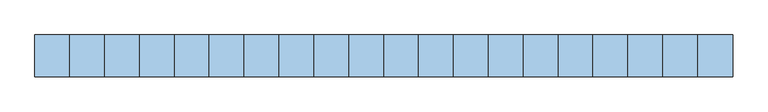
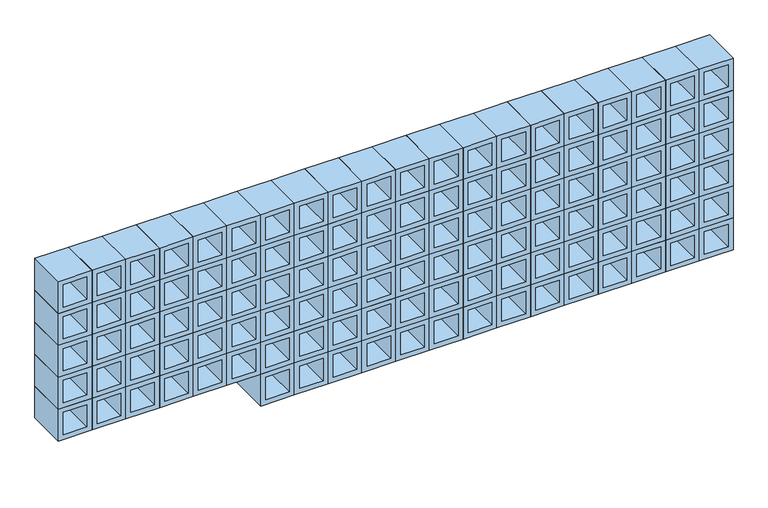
"""IFC4 building model written with IfcOpenShell, lengths in millimetres: window geometry, Concrete_Cobog_Hollow_block_14694 : Cobogó 2,00 x 1,60 m."""

from ifc_helpers import new_model, si_unit, frame, origin, place, context, project, spatial, polyline, outline, extrude, source, transform, mapped, element, save


def window_f572775f(model_context):
    return source(origin(), model_context, "Body", "SweptSolid", [
        extrude(outline(polyline([(2200.0, 1000.0), (2300.0, 1000.0), (2300.0, 900.0), (2200.0, 900.0), (2200.0, 1000.0)]), holes=[polyline([(2285.0, 915.0), (2285.0, 985.0), (2215.0, 985.0), (2215.0, 915.0), (2285.0, 915.0)])]), frame((0.0, -60.0, 0.0), z_axis=(0.0, 1.0, 0.0), x_axis=(0.0, 0.0, 1.0)), (0.0, 0.0, 1.0), 120.0),
        extrude(outline(polyline([(2200.0, 900.0), (2300.0, 900.0), (2300.0, 800.0), (2200.0, 800.0), (2200.0, 900.0)]), holes=[polyline([(2285.0, 815.0), (2285.0, 885.0), (2215.0, 885.0), (2215.0, 815.0), (2285.0, 815.0)])]), frame((0.0, -60.0, 0.0), z_axis=(0.0, 1.0, 0.0), x_axis=(0.0, 0.0, 1.0)), (0.0, 0.0, 1.0), 120.0),
        extrude(outline(polyline([(2200.0, 800.0), (2300.0, 800.0), (2300.0, 700.0), (2200.0, 700.0), (2200.0, 800.0)]), holes=[polyline([(2285.0, 715.0), (2285.0, 785.0), (2215.0, 785.0), (2215.0, 715.0), (2285.0, 715.0)])]), frame((0.0, -60.0, 0.0), z_axis=(0.0, 1.0, 0.0), x_axis=(0.0, 0.0, 1.0)), (0.0, 0.0, 1.0), 120.0),
        extrude(outline(polyline([(2200.0, 700.0), (2300.0, 700.0), (2300.0, 600.0), (2200.0, 600.0), (2200.0, 700.0)]), holes=[polyline([(2285.0, 615.0), (2285.0, 685.0), (2215.0, 685.0), (2215.0, 615.0), (2285.0, 615.0)])]), frame((0.0, -60.0, 0.0), z_axis=(0.0, 1.0, 0.0), x_axis=(0.0, 0.0, 1.0)), (0.0, 0.0, 1.0), 120.0),
        extrude(outline(polyline([(2200.0, 600.0), (2300.0, 600.0), (2300.0, 500.0), (2200.0, 500.0), (2200.0, 600.0)]), holes=[polyline([(2285.0, 515.0), (2285.0, 585.0), (2215.0, 585.0), (2215.0, 515.0), (2285.0, 515.0)])]), frame((0.0, -60.0, 0.0), z_axis=(0.0, 1.0, 0.0), x_axis=(0.0, 0.0, 1.0)), (0.0, 0.0, 1.0), 120.0),
        extrude(outline(polyline([(2200.0, 500.0), (2300.0, 500.0), (2300.0, 400.0), (2200.0, 400.0), (2200.0, 500.0)]), holes=[polyline([(2285.0, 415.0), (2285.0, 485.0), (2215.0, 485.0), (2215.0, 415.0), (2285.0, 415.0)])]), frame((0.0, -60.0, 0.0), z_axis=(0.0, 1.0, 0.0), x_axis=(0.0, 0.0, 1.0)), (0.0, 0.0, 1.0), 120.0),
        extrude(outline(polyline([(2200.0, 400.0), (2300.0, 400.0), (2300.0, 300.0), (2200.0, 300.0), (2200.0, 400.0)]), holes=[polyline([(2285.0, 315.0), (2285.0, 385.0), (2215.0, 385.0), (2215.0, 315.0), (2285.0, 315.0)])]), frame((0.0, -60.0, 0.0), z_axis=(0.0, 1.0, 0.0), x_axis=(0.0, 0.0, 1.0)), (0.0, 0.0, 1.0), 120.0),
        extrude(outline(polyline([(2200.0, 300.0), (2300.0, 300.0), (2300.0, 200.0), (2200.0, 200.0), (2200.0, 300.0)]), holes=[polyline([(2285.0, 215.0), (2285.0, 285.0), (2215.0, 285.0), (2215.0, 215.0), (2285.0, 215.0)])]), frame((0.0, -60.0, 0.0), z_axis=(0.0, 1.0, 0.0), x_axis=(0.0, 0.0, 1.0)), (0.0, 0.0, 1.0), 120.0),
        extrude(outline(polyline([(2200.0, 200.0), (2300.0, 200.0), (2300.0, 100.0), (2200.0, 100.0), (2200.0, 200.0)]), holes=[polyline([(2285.0, 115.0), (2285.0, 185.0), (2215.0, 185.0), (2215.0, 115.0), (2285.0, 115.0)])]), frame((0.0, -60.0, 0.0), z_axis=(0.0, 1.0, 0.0), x_axis=(0.0, 0.0, 1.0)), (0.0, 0.0, 1.0), 120.0),
        extrude(outline(polyline([(2200.0, 100.0), (2300.0, 100.0), (2300.0, 0.0), (2200.0, 0.0), (2200.0, 100.0)]), holes=[polyline([(2285.0, 15.0), (2285.0, 85.0), (2215.0, 85.0), (2215.0, 15.0), (2285.0, 15.0)])]), frame((0.0, -60.0, 0.0), z_axis=(0.0, 1.0, 0.0), x_axis=(0.0, 0.0, 1.0)), (0.0, 0.0, 1.0), 120.0),
        extrude(outline(polyline([(2200.0, 0.0), (2300.0, 0.0), (2300.0, -100.0), (2200.0, -100.0), (2200.0, 0.0)]), holes=[polyline([(2285.0, -85.0), (2285.0, -15.0), (2215.0, -15.0), (2215.0, -85.0), (2285.0, -85.0)])]), frame((0.0, -60.0, 0.0), z_axis=(0.0, 1.0, 0.0), x_axis=(0.0, 0.0, 1.0)), (0.0, 0.0, 1.0), 120.0),
        extrude(outline(polyline([(2200.0, -100.0), (2300.0, -100.0), (2300.0, -200.0), (2200.0, -200.0), (2200.0, -100.0)]), holes=[polyline([(2285.0, -185.0), (2285.0, -115.0), (2215.0, -115.0), (2215.0, -185.0), (2285.0, -185.0)])]), frame((0.0, -60.0, 0.0), z_axis=(0.0, 1.0, 0.0), x_axis=(0.0, 0.0, 1.0)), (0.0, 0.0, 1.0), 120.0),
        extrude(outline(polyline([(2200.0, -200.0), (2300.0, -200.0), (2300.0, -300.0), (2200.0, -300.0), (2200.0, -200.0)]), holes=[polyline([(2285.0, -285.0), (2285.0, -215.0), (2215.0, -215.0), (2215.0, -285.0), (2285.0, -285.0)])]), frame((0.0, -60.0, 0.0), z_axis=(0.0, 1.0, 0.0), x_axis=(0.0, 0.0, 1.0)), (0.0, 0.0, 1.0), 120.0),
        extrude(outline(polyline([(2200.0, -300.0), (2300.0, -300.0), (2300.0, -400.0), (2200.0, -400.0), (2200.0, -300.0)]), holes=[polyline([(2285.0, -385.0), (2285.0, -315.0), (2215.0, -315.0), (2215.0, -385.0), (2285.0, -385.0)])]), frame((0.0, -60.0, 0.0), z_axis=(0.0, 1.0, 0.0), x_axis=(0.0, 0.0, 1.0)), (0.0, 0.0, 1.0), 120.0),
        extrude(outline(polyline([(2200.0, -400.0), (2300.0, -400.0), (2300.0, -500.0), (2200.0, -500.0), (2200.0, -400.0)]), holes=[polyline([(2285.0, -485.0), (2285.0, -415.0), (2215.0, -415.0), (2215.0, -485.0), (2285.0, -485.0)])]), frame((0.0, -60.0, 0.0), z_axis=(0.0, 1.0, 0.0), x_axis=(0.0, 0.0, 1.0)), (0.0, 0.0, 1.0), 120.0),
        extrude(outline(polyline([(2200.0, -500.0), (2300.0, -500.0), (2300.0, -600.0), (2200.0, -600.0), (2200.0, -500.0)]), holes=[polyline([(2285.0, -585.0), (2285.0, -515.0), (2215.0, -515.0), (2215.0, -585.0), (2285.0, -585.0)])]), frame((0.0, -60.0, 0.0), z_axis=(0.0, 1.0, 0.0), x_axis=(0.0, 0.0, 1.0)), (0.0, 0.0, 1.0), 120.0),
        extrude(outline(polyline([(2200.0, -600.0), (2300.0, -600.0), (2300.0, -700.0), (2200.0, -700.0), (2200.0, -600.0)]), holes=[polyline([(2285.0, -685.0), (2285.0, -615.0), (2215.0, -615.0), (2215.0, -685.0), (2285.0, -685.0)])]), frame((0.0, -60.0, 0.0), z_axis=(0.0, 1.0, 0.0), x_axis=(0.0, 0.0, 1.0)), (0.0, 0.0, 1.0), 120.0),
        extrude(outline(polyline([(2200.0, -700.0), (2300.0, -700.0), (2300.0, -800.0), (2200.0, -800.0), (2200.0, -700.0)]), holes=[polyline([(2285.0, -785.0), (2285.0, -715.0), (2215.0, -715.0), (2215.0, -785.0), (2285.0, -785.0)])]), frame((0.0, -60.0, 0.0), z_axis=(0.0, 1.0, 0.0), x_axis=(0.0, 0.0, 1.0)), (0.0, 0.0, 1.0), 120.0),
        extrude(outline(polyline([(2200.0, -800.0), (2300.0, -800.0), (2300.0, -900.0), (2200.0, -900.0), (2200.0, -800.0)]), holes=[polyline([(2285.0, -885.0), (2285.0, -815.0), (2215.0, -815.0), (2215.0, -885.0), (2285.0, -885.0)])]), frame((0.0, -60.0, 0.0), z_axis=(0.0, 1.0, 0.0), x_axis=(0.0, 0.0, 1.0)), (0.0, 0.0, 1.0), 120.0),
        extrude(outline(polyline([(2200.0, -900.0), (2300.0, -900.0), (2300.0, -1000.0), (2200.0, -1000.0), (2200.0, -900.0)]), holes=[polyline([(2285.0, -985.0), (2285.0, -915.0), (2215.0, -915.0), (2215.0, -985.0), (2285.0, -985.0)])]), frame((0.0, -60.0, 0.0), z_axis=(0.0, 1.0, 0.0), x_axis=(0.0, 0.0, 1.0)), (0.0, 0.0, 1.0), 120.0),
        extrude(outline(polyline([(2100.0, 1000.0), (2200.0, 1000.0), (2200.0, 900.0), (2100.0, 900.0), (2100.0, 1000.0)]), holes=[polyline([(2185.0, 915.0), (2185.0, 985.0), (2115.0, 985.0), (2115.0, 915.0), (2185.0, 915.0)])]), frame((0.0, -60.0, 0.0), z_axis=(0.0, 1.0, 0.0), x_axis=(0.0, 0.0, 1.0)), (0.0, 0.0, 1.0), 120.0),
        extrude(outline(polyline([(2100.0, 900.0), (2200.0, 900.0), (2200.0, 800.0), (2100.0, 800.0), (2100.0, 900.0)]), holes=[polyline([(2185.0, 815.0), (2185.0, 885.0), (2115.0, 885.0), (2115.0, 815.0), (2185.0, 815.0)])]), frame((0.0, -60.0, 0.0), z_axis=(0.0, 1.0, 0.0), x_axis=(0.0, 0.0, 1.0)), (0.0, 0.0, 1.0), 120.0),
        extrude(outline(polyline([(2100.0, 800.0), (2200.0, 800.0), (2200.0, 700.0), (2100.0, 700.0), (2100.0, 800.0)]), holes=[polyline([(2185.0, 715.0), (2185.0, 785.0), (2115.0, 785.0), (2115.0, 715.0), (2185.0, 715.0)])]), frame((0.0, -60.0, 0.0), z_axis=(0.0, 1.0, 0.0), x_axis=(0.0, 0.0, 1.0)), (0.0, 0.0, 1.0), 120.0),
        extrude(outline(polyline([(2100.0, 700.0), (2200.0, 700.0), (2200.0, 600.0), (2100.0, 600.0), (2100.0, 700.0)]), holes=[polyline([(2185.0, 615.0), (2185.0, 685.0), (2115.0, 685.0), (2115.0, 615.0), (2185.0, 615.0)])]), frame((0.0, -60.0, 0.0), z_axis=(0.0, 1.0, 0.0), x_axis=(0.0, 0.0, 1.0)), (0.0, 0.0, 1.0), 120.0),
        extrude(outline(polyline([(2100.0, 600.0), (2200.0, 600.0), (2200.0, 500.0), (2100.0, 500.0), (2100.0, 600.0)]), holes=[polyline([(2185.0, 515.0), (2185.0, 585.0), (2115.0, 585.0), (2115.0, 515.0), (2185.0, 515.0)])]), frame((0.0, -60.0, 0.0), z_axis=(0.0, 1.0, 0.0), x_axis=(0.0, 0.0, 1.0)), (0.0, 0.0, 1.0), 120.0),
        extrude(outline(polyline([(2100.0, 500.0), (2200.0, 500.0), (2200.0, 400.0), (2100.0, 400.0), (2100.0, 500.0)]), holes=[polyline([(2185.0, 415.0), (2185.0, 485.0), (2115.0, 485.0), (2115.0, 415.0), (2185.0, 415.0)])]), frame((0.0, -60.0, 0.0), z_axis=(0.0, 1.0, 0.0), x_axis=(0.0, 0.0, 1.0)), (0.0, 0.0, 1.0), 120.0),
        extrude(outline(polyline([(2100.0, 400.0), (2200.0, 400.0), (2200.0, 300.0), (2100.0, 300.0), (2100.0, 400.0)]), holes=[polyline([(2185.0, 315.0), (2185.0, 385.0), (2115.0, 385.0), (2115.0, 315.0), (2185.0, 315.0)])]), frame((0.0, -60.0, 0.0), z_axis=(0.0, 1.0, 0.0), x_axis=(0.0, 0.0, 1.0)), (0.0, 0.0, 1.0), 120.0),
        extrude(outline(polyline([(2100.0, 300.0), (2200.0, 300.0), (2200.0, 200.0), (2100.0, 200.0), (2100.0, 300.0)]), holes=[polyline([(2185.0, 215.0), (2185.0, 285.0), (2115.0, 285.0), (2115.0, 215.0), (2185.0, 215.0)])]), frame((0.0, -60.0, 0.0), z_axis=(0.0, 1.0, 0.0), x_axis=(0.0, 0.0, 1.0)), (0.0, 0.0, 1.0), 120.0),
        extrude(outline(polyline([(2100.0, 200.0), (2200.0, 200.0), (2200.0, 100.0), (2100.0, 100.0), (2100.0, 200.0)]), holes=[polyline([(2185.0, 115.0), (2185.0, 185.0), (2115.0, 185.0), (2115.0, 115.0), (2185.0, 115.0)])]), frame((0.0, -60.0, 0.0), z_axis=(0.0, 1.0, 0.0), x_axis=(0.0, 0.0, 1.0)), (0.0, 0.0, 1.0), 120.0),
        extrude(outline(polyline([(2100.0, 100.0), (2200.0, 100.0), (2200.0, 0.0), (2100.0, 0.0), (2100.0, 100.0)]), holes=[polyline([(2185.0, 15.0), (2185.0, 85.0), (2115.0, 85.0), (2115.0, 15.0), (2185.0, 15.0)])]), frame((0.0, -60.0, 0.0), z_axis=(0.0, 1.0, 0.0), x_axis=(0.0, 0.0, 1.0)), (0.0, 0.0, 1.0), 120.0),
        extrude(outline(polyline([(2100.0, 0.0), (2200.0, 0.0), (2200.0, -100.0), (2100.0, -100.0), (2100.0, 0.0)]), holes=[polyline([(2185.0, -85.0), (2185.0, -15.0), (2115.0, -15.0), (2115.0, -85.0), (2185.0, -85.0)])]), frame((0.0, -60.0, 0.0), z_axis=(0.0, 1.0, 0.0), x_axis=(0.0, 0.0, 1.0)), (0.0, 0.0, 1.0), 120.0),
        extrude(outline(polyline([(2100.0, -100.0), (2200.0, -100.0), (2200.0, -200.0), (2100.0, -200.0), (2100.0, -100.0)]), holes=[polyline([(2185.0, -185.0), (2185.0, -115.0), (2115.0, -115.0), (2115.0, -185.0), (2185.0, -185.0)])]), frame((0.0, -60.0, 0.0), z_axis=(0.0, 1.0, 0.0), x_axis=(0.0, 0.0, 1.0)), (0.0, 0.0, 1.0), 120.0),
        extrude(outline(polyline([(2100.0, -200.0), (2200.0, -200.0), (2200.0, -300.0), (2100.0, -300.0), (2100.0, -200.0)]), holes=[polyline([(2185.0, -285.0), (2185.0, -215.0), (2115.0, -215.0), (2115.0, -285.0), (2185.0, -285.0)])]), frame((0.0, -60.0, 0.0), z_axis=(0.0, 1.0, 0.0), x_axis=(0.0, 0.0, 1.0)), (0.0, 0.0, 1.0), 120.0),
        extrude(outline(polyline([(2100.0, -300.0), (2200.0, -300.0), (2200.0, -400.0), (2100.0, -400.0), (2100.0, -300.0)]), holes=[polyline([(2185.0, -385.0), (2185.0, -315.0), (2115.0, -315.0), (2115.0, -385.0), (2185.0, -385.0)])]), frame((0.0, -60.0, 0.0), z_axis=(0.0, 1.0, 0.0), x_axis=(0.0, 0.0, 1.0)), (0.0, 0.0, 1.0), 120.0),
        extrude(outline(polyline([(2100.0, -400.0), (2200.0, -400.0), (2200.0, -500.0), (2100.0, -500.0), (2100.0, -400.0)]), holes=[polyline([(2185.0, -485.0), (2185.0, -415.0), (2115.0, -415.0), (2115.0, -485.0), (2185.0, -485.0)])]), frame((0.0, -60.0, 0.0), z_axis=(0.0, 1.0, 0.0), x_axis=(0.0, 0.0, 1.0)), (0.0, 0.0, 1.0), 120.0),
        extrude(outline(polyline([(2100.0, -500.0), (2200.0, -500.0), (2200.0, -600.0), (2100.0, -600.0), (2100.0, -500.0)]), holes=[polyline([(2185.0, -585.0), (2185.0, -515.0), (2115.0, -515.0), (2115.0, -585.0), (2185.0, -585.0)])]), frame((0.0, -60.0, 0.0), z_axis=(0.0, 1.0, 0.0), x_axis=(0.0, 0.0, 1.0)), (0.0, 0.0, 1.0), 120.0),
        extrude(outline(polyline([(2100.0, -600.0), (2200.0, -600.0), (2200.0, -700.0), (2100.0, -700.0), (2100.0, -600.0)]), holes=[polyline([(2185.0, -685.0), (2185.0, -615.0), (2115.0, -615.0), (2115.0, -685.0), (2185.0, -685.0)])]), frame((0.0, -60.0, 0.0), z_axis=(0.0, 1.0, 0.0), x_axis=(0.0, 0.0, 1.0)), (0.0, 0.0, 1.0), 120.0),
        extrude(outline(polyline([(2100.0, -700.0), (2200.0, -700.0), (2200.0, -800.0), (2100.0, -800.0), (2100.0, -700.0)]), holes=[polyline([(2185.0, -785.0), (2185.0, -715.0), (2115.0, -715.0), (2115.0, -785.0), (2185.0, -785.0)])]), frame((0.0, -60.0, 0.0), z_axis=(0.0, 1.0, 0.0), x_axis=(0.0, 0.0, 1.0)), (0.0, 0.0, 1.0), 120.0),
        extrude(outline(polyline([(2100.0, -800.0), (2200.0, -800.0), (2200.0, -900.0), (2100.0, -900.0), (2100.0, -800.0)]), holes=[polyline([(2185.0, -885.0), (2185.0, -815.0), (2115.0, -815.0), (2115.0, -885.0), (2185.0, -885.0)])]), frame((0.0, -60.0, 0.0), z_axis=(0.0, 1.0, 0.0), x_axis=(0.0, 0.0, 1.0)), (0.0, 0.0, 1.0), 120.0),
        extrude(outline(polyline([(2100.0, -900.0), (2200.0, -900.0), (2200.0, -1000.0), (2100.0, -1000.0), (2100.0, -900.0)]), holes=[polyline([(2185.0, -985.0), (2185.0, -915.0), (2115.0, -915.0), (2115.0, -985.0), (2185.0, -985.0)])]), frame((0.0, -60.0, 0.0), z_axis=(0.0, 1.0, 0.0), x_axis=(0.0, 0.0, 1.0)), (0.0, 0.0, 1.0), 120.0),
        extrude(outline(polyline([(2000.0, 1000.0), (2100.0, 1000.0), (2100.0, 900.0), (2000.0, 900.0), (2000.0, 1000.0)]), holes=[polyline([(2085.0, 915.0), (2085.0, 985.0), (2015.0, 985.0), (2015.0, 915.0), (2085.0, 915.0)])]), frame((0.0, -60.0, 0.0), z_axis=(0.0, 1.0, 0.0), x_axis=(0.0, 0.0, 1.0)), (0.0, 0.0, 1.0), 120.0),
        extrude(outline(polyline([(2000.0, 900.0), (2100.0, 900.0), (2100.0, 800.0), (2000.0, 800.0), (2000.0, 900.0)]), holes=[polyline([(2085.0, 815.0), (2085.0, 885.0), (2015.0, 885.0), (2015.0, 815.0), (2085.0, 815.0)])]), frame((0.0, -60.0, 0.0), z_axis=(0.0, 1.0, 0.0), x_axis=(0.0, 0.0, 1.0)), (0.0, 0.0, 1.0), 120.0),
        extrude(outline(polyline([(2000.0, 800.0), (2100.0, 800.0), (2100.0, 700.0), (2000.0, 700.0), (2000.0, 800.0)]), holes=[polyline([(2085.0, 715.0), (2085.0, 785.0), (2015.0, 785.0), (2015.0, 715.0), (2085.0, 715.0)])]), frame((0.0, -60.0, 0.0), z_axis=(0.0, 1.0, 0.0), x_axis=(0.0, 0.0, 1.0)), (0.0, 0.0, 1.0), 120.0),
        extrude(outline(polyline([(2000.0, 700.0), (2100.0, 700.0), (2100.0, 600.0), (2000.0, 600.0), (2000.0, 700.0)]), holes=[polyline([(2085.0, 615.0), (2085.0, 685.0), (2015.0, 685.0), (2015.0, 615.0), (2085.0, 615.0)])]), frame((0.0, -60.0, 0.0), z_axis=(0.0, 1.0, 0.0), x_axis=(0.0, 0.0, 1.0)), (0.0, 0.0, 1.0), 120.0),
        extrude(outline(polyline([(2000.0, 600.0), (2100.0, 600.0), (2100.0, 500.0), (2000.0, 500.0), (2000.0, 600.0)]), holes=[polyline([(2085.0, 515.0), (2085.0, 585.0), (2015.0, 585.0), (2015.0, 515.0), (2085.0, 515.0)])]), frame((0.0, -60.0, 0.0), z_axis=(0.0, 1.0, 0.0), x_axis=(0.0, 0.0, 1.0)), (0.0, 0.0, 1.0), 120.0),
        extrude(outline(polyline([(2000.0, 500.0), (2100.0, 500.0), (2100.0, 400.0), (2000.0, 400.0), (2000.0, 500.0)]), holes=[polyline([(2085.0, 415.0), (2085.0, 485.0), (2015.0, 485.0), (2015.0, 415.0), (2085.0, 415.0)])]), frame((0.0, -60.0, 0.0), z_axis=(0.0, 1.0, 0.0), x_axis=(0.0, 0.0, 1.0)), (0.0, 0.0, 1.0), 120.0),
        extrude(outline(polyline([(2000.0, 400.0), (2100.0, 400.0), (2100.0, 300.0), (2000.0, 300.0), (2000.0, 400.0)]), holes=[polyline([(2085.0, 315.0), (2085.0, 385.0), (2015.0, 385.0), (2015.0, 315.0), (2085.0, 315.0)])]), frame((0.0, -60.0, 0.0), z_axis=(0.0, 1.0, 0.0), x_axis=(0.0, 0.0, 1.0)), (0.0, 0.0, 1.0), 120.0),
        extrude(outline(polyline([(2000.0, 300.0), (2100.0, 300.0), (2100.0, 200.0), (2000.0, 200.0), (2000.0, 300.0)]), holes=[polyline([(2085.0, 215.0), (2085.0, 285.0), (2015.0, 285.0), (2015.0, 215.0), (2085.0, 215.0)])]), frame((0.0, -60.0, 0.0), z_axis=(0.0, 1.0, 0.0), x_axis=(0.0, 0.0, 1.0)), (0.0, 0.0, 1.0), 120.0),
        extrude(outline(polyline([(2000.0, 200.0), (2100.0, 200.0), (2100.0, 100.0), (2000.0, 100.0), (2000.0, 200.0)]), holes=[polyline([(2085.0, 115.0), (2085.0, 185.0), (2015.0, 185.0), (2015.0, 115.0), (2085.0, 115.0)])]), frame((0.0, -60.0, 0.0), z_axis=(0.0, 1.0, 0.0), x_axis=(0.0, 0.0, 1.0)), (0.0, 0.0, 1.0), 120.0),
        extrude(outline(polyline([(2000.0, 100.0), (2100.0, 100.0), (2100.0, 0.0), (2000.0, 0.0), (2000.0, 100.0)]), holes=[polyline([(2085.0, 15.0), (2085.0, 85.0), (2015.0, 85.0), (2015.0, 15.0), (2085.0, 15.0)])]), frame((0.0, -60.0, 0.0), z_axis=(0.0, 1.0, 0.0), x_axis=(0.0, 0.0, 1.0)), (0.0, 0.0, 1.0), 120.0),
        extrude(outline(polyline([(2000.0, 0.0), (2100.0, 0.0), (2100.0, -100.0), (2000.0, -100.0), (2000.0, 0.0)]), holes=[polyline([(2085.0, -85.0), (2085.0, -15.0), (2015.0, -15.0), (2015.0, -85.0), (2085.0, -85.0)])]), frame((0.0, -60.0, 0.0), z_axis=(0.0, 1.0, 0.0), x_axis=(0.0, 0.0, 1.0)), (0.0, 0.0, 1.0), 120.0),
        extrude(outline(polyline([(2000.0, -100.0), (2100.0, -100.0), (2100.0, -200.0), (2000.0, -200.0), (2000.0, -100.0)]), holes=[polyline([(2085.0, -185.0), (2085.0, -115.0), (2015.0, -115.0), (2015.0, -185.0), (2085.0, -185.0)])]), frame((0.0, -60.0, 0.0), z_axis=(0.0, 1.0, 0.0), x_axis=(0.0, 0.0, 1.0)), (0.0, 0.0, 1.0), 120.0),
        extrude(outline(polyline([(2000.0, -200.0), (2100.0, -200.0), (2100.0, -300.0), (2000.0, -300.0), (2000.0, -200.0)]), holes=[polyline([(2085.0, -285.0), (2085.0, -215.0), (2015.0, -215.0), (2015.0, -285.0), (2085.0, -285.0)])]), frame((0.0, -60.0, 0.0), z_axis=(0.0, 1.0, 0.0), x_axis=(0.0, 0.0, 1.0)), (0.0, 0.0, 1.0), 120.0),
        extrude(outline(polyline([(2000.0, -300.0), (2100.0, -300.0), (2100.0, -400.0), (2000.0, -400.0), (2000.0, -300.0)]), holes=[polyline([(2085.0, -385.0), (2085.0, -315.0), (2015.0, -315.0), (2015.0, -385.0), (2085.0, -385.0)])]), frame((0.0, -60.0, 0.0), z_axis=(0.0, 1.0, 0.0), x_axis=(0.0, 0.0, 1.0)), (0.0, 0.0, 1.0), 120.0),
        extrude(outline(polyline([(2000.0, -400.0), (2100.0, -400.0), (2100.0, -500.0), (2000.0, -500.0), (2000.0, -400.0)]), holes=[polyline([(2085.0, -485.0), (2085.0, -415.0), (2015.0, -415.0), (2015.0, -485.0), (2085.0, -485.0)])]), frame((0.0, -60.0, 0.0), z_axis=(0.0, 1.0, 0.0), x_axis=(0.0, 0.0, 1.0)), (0.0, 0.0, 1.0), 120.0),
        extrude(outline(polyline([(2000.0, -500.0), (2100.0, -500.0), (2100.0, -600.0), (2000.0, -600.0), (2000.0, -500.0)]), holes=[polyline([(2085.0, -585.0), (2085.0, -515.0), (2015.0, -515.0), (2015.0, -585.0), (2085.0, -585.0)])]), frame((0.0, -60.0, 0.0), z_axis=(0.0, 1.0, 0.0), x_axis=(0.0, 0.0, 1.0)), (0.0, 0.0, 1.0), 120.0),
        extrude(outline(polyline([(2000.0, -600.0), (2100.0, -600.0), (2100.0, -700.0), (2000.0, -700.0), (2000.0, -600.0)]), holes=[polyline([(2085.0, -685.0), (2085.0, -615.0), (2015.0, -615.0), (2015.0, -685.0), (2085.0, -685.0)])]), frame((0.0, -60.0, 0.0), z_axis=(0.0, 1.0, 0.0), x_axis=(0.0, 0.0, 1.0)), (0.0, 0.0, 1.0), 120.0),
        extrude(outline(polyline([(2000.0, -700.0), (2100.0, -700.0), (2100.0, -800.0), (2000.0, -800.0), (2000.0, -700.0)]), holes=[polyline([(2085.0, -785.0), (2085.0, -715.0), (2015.0, -715.0), (2015.0, -785.0), (2085.0, -785.0)])]), frame((0.0, -60.0, 0.0), z_axis=(0.0, 1.0, 0.0), x_axis=(0.0, 0.0, 1.0)), (0.0, 0.0, 1.0), 120.0),
        extrude(outline(polyline([(2000.0, -800.0), (2100.0, -800.0), (2100.0, -900.0), (2000.0, -900.0), (2000.0, -800.0)]), holes=[polyline([(2085.0, -885.0), (2085.0, -815.0), (2015.0, -815.0), (2015.0, -885.0), (2085.0, -885.0)])]), frame((0.0, -60.0, 0.0), z_axis=(0.0, 1.0, 0.0), x_axis=(0.0, 0.0, 1.0)), (0.0, 0.0, 1.0), 120.0),
        extrude(outline(polyline([(2000.0, -900.0), (2100.0, -900.0), (2100.0, -1000.0), (2000.0, -1000.0), (2000.0, -900.0)]), holes=[polyline([(2085.0, -985.0), (2085.0, -915.0), (2015.0, -915.0), (2015.0, -985.0), (2085.0, -985.0)])]), frame((0.0, -60.0, 0.0), z_axis=(0.0, 1.0, 0.0), x_axis=(0.0, 0.0, 1.0)), (0.0, 0.0, 1.0), 120.0),
        extrude(outline(polyline([(1900.0, 1000.0), (2000.0, 1000.0), (2000.0, 900.0), (1900.0, 900.0), (1900.0, 1000.0)]), holes=[polyline([(1985.0, 915.0), (1985.0, 985.0), (1915.0, 985.0), (1915.0, 915.0), (1985.0, 915.0)])]), frame((0.0, -60.0, 0.0), z_axis=(0.0, 1.0, 0.0), x_axis=(0.0, 0.0, 1.0)), (0.0, 0.0, 1.0), 120.0),
        extrude(outline(polyline([(1900.0, 900.0), (2000.0, 900.0), (2000.0, 800.0), (1900.0, 800.0), (1900.0, 900.0)]), holes=[polyline([(1985.0, 815.0), (1985.0, 885.0), (1915.0, 885.0), (1915.0, 815.0), (1985.0, 815.0)])]), frame((0.0, -60.0, 0.0), z_axis=(0.0, 1.0, 0.0), x_axis=(0.0, 0.0, 1.0)), (0.0, 0.0, 1.0), 120.0),
        extrude(outline(polyline([(1900.0, 800.0), (2000.0, 800.0), (2000.0, 700.0), (1900.0, 700.0), (1900.0, 800.0)]), holes=[polyline([(1985.0, 715.0), (1985.0, 785.0), (1915.0, 785.0), (1915.0, 715.0), (1985.0, 715.0)])]), frame((0.0, -60.0, 0.0), z_axis=(0.0, 1.0, 0.0), x_axis=(0.0, 0.0, 1.0)), (0.0, 0.0, 1.0), 120.0),
        extrude(outline(polyline([(1900.0, 700.0), (2000.0, 700.0), (2000.0, 600.0), (1900.0, 600.0), (1900.0, 700.0)]), holes=[polyline([(1985.0, 615.0), (1985.0, 685.0), (1915.0, 685.0), (1915.0, 615.0), (1985.0, 615.0)])]), frame((0.0, -60.0, 0.0), z_axis=(0.0, 1.0, 0.0), x_axis=(0.0, 0.0, 1.0)), (0.0, 0.0, 1.0), 120.0),
        extrude(outline(polyline([(1900.0, 600.0), (2000.0, 600.0), (2000.0, 500.0), (1900.0, 500.0), (1900.0, 600.0)]), holes=[polyline([(1985.0, 515.0), (1985.0, 585.0), (1915.0, 585.0), (1915.0, 515.0), (1985.0, 515.0)])]), frame((0.0, -60.0, 0.0), z_axis=(0.0, 1.0, 0.0), x_axis=(0.0, 0.0, 1.0)), (0.0, 0.0, 1.0), 120.0),
        extrude(outline(polyline([(1900.0, 500.0), (2000.0, 500.0), (2000.0, 400.0), (1900.0, 400.0), (1900.0, 500.0)]), holes=[polyline([(1985.0, 415.0), (1985.0, 485.0), (1915.0, 485.0), (1915.0, 415.0), (1985.0, 415.0)])]), frame((0.0, -60.0, 0.0), z_axis=(0.0, 1.0, 0.0), x_axis=(0.0, 0.0, 1.0)), (0.0, 0.0, 1.0), 120.0),
        extrude(outline(polyline([(1900.0, 400.0), (2000.0, 400.0), (2000.0, 300.0), (1900.0, 300.0), (1900.0, 400.0)]), holes=[polyline([(1985.0, 315.0), (1985.0, 385.0), (1915.0, 385.0), (1915.0, 315.0), (1985.0, 315.0)])]), frame((0.0, -60.0, 0.0), z_axis=(0.0, 1.0, 0.0), x_axis=(0.0, 0.0, 1.0)), (0.0, 0.0, 1.0), 120.0),
        extrude(outline(polyline([(1900.0, 300.0), (2000.0, 300.0), (2000.0, 200.0), (1900.0, 200.0), (1900.0, 300.0)]), holes=[polyline([(1985.0, 215.0), (1985.0, 285.0), (1915.0, 285.0), (1915.0, 215.0), (1985.0, 215.0)])]), frame((0.0, -60.0, 0.0), z_axis=(0.0, 1.0, 0.0), x_axis=(0.0, 0.0, 1.0)), (0.0, 0.0, 1.0), 120.0),
        extrude(outline(polyline([(1900.0, 200.0), (2000.0, 200.0), (2000.0, 100.0), (1900.0, 100.0), (1900.0, 200.0)]), holes=[polyline([(1985.0, 115.0), (1985.0, 185.0), (1915.0, 185.0), (1915.0, 115.0), (1985.0, 115.0)])]), frame((0.0, -60.0, 0.0), z_axis=(0.0, 1.0, 0.0), x_axis=(0.0, 0.0, 1.0)), (0.0, 0.0, 1.0), 120.0),
        extrude(outline(polyline([(1900.0, 100.0), (2000.0, 100.0), (2000.0, 0.0), (1900.0, 0.0), (1900.0, 100.0)]), holes=[polyline([(1985.0, 15.0), (1985.0, 85.0), (1915.0, 85.0), (1915.0, 15.0), (1985.0, 15.0)])]), frame((0.0, -60.0, 0.0), z_axis=(0.0, 1.0, 0.0), x_axis=(0.0, 0.0, 1.0)), (0.0, 0.0, 1.0), 120.0),
        extrude(outline(polyline([(1900.0, 0.0), (2000.0, 0.0), (2000.0, -100.0), (1900.0, -100.0), (1900.0, 0.0)]), holes=[polyline([(1985.0, -85.0), (1985.0, -15.0), (1915.0, -15.0), (1915.0, -85.0), (1985.0, -85.0)])]), frame((0.0, -60.0, 0.0), z_axis=(0.0, 1.0, 0.0), x_axis=(0.0, 0.0, 1.0)), (0.0, 0.0, 1.0), 120.0),
        extrude(outline(polyline([(1900.0, -100.0), (2000.0, -100.0), (2000.0, -200.0), (1900.0, -200.0), (1900.0, -100.0)]), holes=[polyline([(1985.0, -185.0), (1985.0, -115.0), (1915.0, -115.0), (1915.0, -185.0), (1985.0, -185.0)])]), frame((0.0, -60.0, 0.0), z_axis=(0.0, 1.0, 0.0), x_axis=(0.0, 0.0, 1.0)), (0.0, 0.0, 1.0), 120.0),
        extrude(outline(polyline([(1900.0, -200.0), (2000.0, -200.0), (2000.0, -300.0), (1900.0, -300.0), (1900.0, -200.0)]), holes=[polyline([(1985.0, -285.0), (1985.0, -215.0), (1915.0, -215.0), (1915.0, -285.0), (1985.0, -285.0)])]), frame((0.0, -60.0, 0.0), z_axis=(0.0, 1.0, 0.0), x_axis=(0.0, 0.0, 1.0)), (0.0, 0.0, 1.0), 120.0),
        extrude(outline(polyline([(1900.0, -300.0), (2000.0, -300.0), (2000.0, -400.0), (1900.0, -400.0), (1900.0, -300.0)]), holes=[polyline([(1985.0, -385.0), (1985.0, -315.0), (1915.0, -315.0), (1915.0, -385.0), (1985.0, -385.0)])]), frame((0.0, -60.0, 0.0), z_axis=(0.0, 1.0, 0.0), x_axis=(0.0, 0.0, 1.0)), (0.0, 0.0, 1.0), 120.0),
        extrude(outline(polyline([(1900.0, -400.0), (2000.0, -400.0), (2000.0, -500.0), (1900.0, -500.0), (1900.0, -400.0)]), holes=[polyline([(1985.0, -485.0), (1985.0, -415.0), (1915.0, -415.0), (1915.0, -485.0), (1985.0, -485.0)])]), frame((0.0, -60.0, 0.0), z_axis=(0.0, 1.0, 0.0), x_axis=(0.0, 0.0, 1.0)), (0.0, 0.0, 1.0), 120.0),
        extrude(outline(polyline([(1900.0, -500.0), (2000.0, -500.0), (2000.0, -600.0), (1900.0, -600.0), (1900.0, -500.0)]), holes=[polyline([(1985.0, -585.0), (1985.0, -515.0), (1915.0, -515.0), (1915.0, -585.0), (1985.0, -585.0)])]), frame((0.0, -60.0, 0.0), z_axis=(0.0, 1.0, 0.0), x_axis=(0.0, 0.0, 1.0)), (0.0, 0.0, 1.0), 120.0),
        extrude(outline(polyline([(1900.0, -600.0), (2000.0, -600.0), (2000.0, -700.0), (1900.0, -700.0), (1900.0, -600.0)]), holes=[polyline([(1985.0, -685.0), (1985.0, -615.0), (1915.0, -615.0), (1915.0, -685.0), (1985.0, -685.0)])]), frame((0.0, -60.0, 0.0), z_axis=(0.0, 1.0, 0.0), x_axis=(0.0, 0.0, 1.0)), (0.0, 0.0, 1.0), 120.0),
        extrude(outline(polyline([(1900.0, -700.0), (2000.0, -700.0), (2000.0, -800.0), (1900.0, -800.0), (1900.0, -700.0)]), holes=[polyline([(1985.0, -785.0), (1985.0, -715.0), (1915.0, -715.0), (1915.0, -785.0), (1985.0, -785.0)])]), frame((0.0, -60.0, 0.0), z_axis=(0.0, 1.0, 0.0), x_axis=(0.0, 0.0, 1.0)), (0.0, 0.0, 1.0), 120.0),
        extrude(outline(polyline([(1900.0, -800.0), (2000.0, -800.0), (2000.0, -900.0), (1900.0, -900.0), (1900.0, -800.0)]), holes=[polyline([(1985.0, -885.0), (1985.0, -815.0), (1915.0, -815.0), (1915.0, -885.0), (1985.0, -885.0)])]), frame((0.0, -60.0, 0.0), z_axis=(0.0, 1.0, 0.0), x_axis=(0.0, 0.0, 1.0)), (0.0, 0.0, 1.0), 120.0),
        extrude(outline(polyline([(1900.0, -900.0), (2000.0, -900.0), (2000.0, -1000.0), (1900.0, -1000.0), (1900.0, -900.0)]), holes=[polyline([(1985.0, -985.0), (1985.0, -915.0), (1915.0, -915.0), (1915.0, -985.0), (1985.0, -985.0)])]), frame((0.0, -60.0, 0.0), z_axis=(0.0, 1.0, 0.0), x_axis=(0.0, 0.0, 1.0)), (0.0, 0.0, 1.0), 120.0),
        extrude(outline(polyline([(1800.0, 1000.0), (1900.0, 1000.0), (1900.0, 900.0), (1800.0, 900.0), (1800.0, 1000.0)]), holes=[polyline([(1885.0, 915.0), (1885.0, 985.0), (1815.0, 985.0), (1815.0, 915.0), (1885.0, 915.0)])]), frame((0.0, -60.0, 0.0), z_axis=(0.0, 1.0, 0.0), x_axis=(0.0, 0.0, 1.0)), (0.0, 0.0, 1.0), 120.0),
        extrude(outline(polyline([(1800.0, 900.0), (1900.0, 900.0), (1900.0, 800.0), (1800.0, 800.0), (1800.0, 900.0)]), holes=[polyline([(1885.0, 815.0), (1885.0, 885.0), (1815.0, 885.0), (1815.0, 815.0), (1885.0, 815.0)])]), frame((0.0, -60.0, 0.0), z_axis=(0.0, 1.0, 0.0), x_axis=(0.0, 0.0, 1.0)), (0.0, 0.0, 1.0), 120.0),
        extrude(outline(polyline([(1800.0, 800.0), (1900.0, 800.0), (1900.0, 700.0), (1800.0, 700.0), (1800.0, 800.0)]), holes=[polyline([(1885.0, 715.0), (1885.0, 785.0), (1815.0, 785.0), (1815.0, 715.0), (1885.0, 715.0)])]), frame((0.0, -60.0, 0.0), z_axis=(0.0, 1.0, 0.0), x_axis=(0.0, 0.0, 1.0)), (0.0, 0.0, 1.0), 120.0),
        extrude(outline(polyline([(1800.0, 700.0), (1900.0, 700.0), (1900.0, 600.0), (1800.0, 600.0), (1800.0, 700.0)]), holes=[polyline([(1885.0, 615.0), (1885.0, 685.0), (1815.0, 685.0), (1815.0, 615.0), (1885.0, 615.0)])]), frame((0.0, -60.0, 0.0), z_axis=(0.0, 1.0, 0.0), x_axis=(0.0, 0.0, 1.0)), (0.0, 0.0, 1.0), 120.0),
        extrude(outline(polyline([(1800.0, 600.0), (1900.0, 600.0), (1900.0, 500.0), (1800.0, 500.0), (1800.0, 600.0)]), holes=[polyline([(1885.0, 515.0), (1885.0, 585.0), (1815.0, 585.0), (1815.0, 515.0), (1885.0, 515.0)])]), frame((0.0, -60.0, 0.0), z_axis=(0.0, 1.0, 0.0), x_axis=(0.0, 0.0, 1.0)), (0.0, 0.0, 1.0), 120.0),
        extrude(outline(polyline([(1800.0, 500.0), (1900.0, 500.0), (1900.0, 400.0), (1800.0, 400.0), (1800.0, 500.0)]), holes=[polyline([(1885.0, 415.0), (1885.0, 485.0), (1815.0, 485.0), (1815.0, 415.0), (1885.0, 415.0)])]), frame((0.0, -60.0, 0.0), z_axis=(0.0, 1.0, 0.0), x_axis=(0.0, 0.0, 1.0)), (0.0, 0.0, 1.0), 120.0),
        extrude(outline(polyline([(1800.0, 400.0), (1900.0, 400.0), (1900.0, 300.0), (1800.0, 300.0), (1800.0, 400.0)]), holes=[polyline([(1885.0, 315.0), (1885.0, 385.0), (1815.0, 385.0), (1815.0, 315.0), (1885.0, 315.0)])]), frame((0.0, -60.0, 0.0), z_axis=(0.0, 1.0, 0.0), x_axis=(0.0, 0.0, 1.0)), (0.0, 0.0, 1.0), 120.0),
        extrude(outline(polyline([(1800.0, 300.0), (1900.0, 300.0), (1900.0, 200.0), (1800.0, 200.0), (1800.0, 300.0)]), holes=[polyline([(1885.0, 215.0), (1885.0, 285.0), (1815.0, 285.0), (1815.0, 215.0), (1885.0, 215.0)])]), frame((0.0, -60.0, 0.0), z_axis=(0.0, 1.0, 0.0), x_axis=(0.0, 0.0, 1.0)), (0.0, 0.0, 1.0), 120.0),
        extrude(outline(polyline([(1800.0, 200.0), (1900.0, 200.0), (1900.0, 100.0), (1800.0, 100.0), (1800.0, 200.0)]), holes=[polyline([(1885.0, 115.0), (1885.0, 185.0), (1815.0, 185.0), (1815.0, 115.0), (1885.0, 115.0)])]), frame((0.0, -60.0, 0.0), z_axis=(0.0, 1.0, 0.0), x_axis=(0.0, 0.0, 1.0)), (0.0, 0.0, 1.0), 120.0),
        extrude(outline(polyline([(1800.0, 100.0), (1900.0, 100.0), (1900.0, 0.0), (1800.0, 0.0), (1800.0, 100.0)]), holes=[polyline([(1885.0, 15.0), (1885.0, 85.0), (1815.0, 85.0), (1815.0, 15.0), (1885.0, 15.0)])]), frame((0.0, -60.0, 0.0), z_axis=(0.0, 1.0, 0.0), x_axis=(0.0, 0.0, 1.0)), (0.0, 0.0, 1.0), 120.0),
        extrude(outline(polyline([(1800.0, 0.0), (1900.0, 0.0), (1900.0, -100.0), (1800.0, -100.0), (1800.0, 0.0)]), holes=[polyline([(1885.0, -85.0), (1885.0, -15.0), (1815.0, -15.0), (1815.0, -85.0), (1885.0, -85.0)])]), frame((0.0, -60.0, 0.0), z_axis=(0.0, 1.0, 0.0), x_axis=(0.0, 0.0, 1.0)), (0.0, 0.0, 1.0), 120.0),
        extrude(outline(polyline([(1800.0, -100.0), (1900.0, -100.0), (1900.0, -200.0), (1800.0, -200.0), (1800.0, -100.0)]), holes=[polyline([(1885.0, -185.0), (1885.0, -115.0), (1815.0, -115.0), (1815.0, -185.0), (1885.0, -185.0)])]), frame((0.0, -60.0, 0.0), z_axis=(0.0, 1.0, 0.0), x_axis=(0.0, 0.0, 1.0)), (0.0, 0.0, 1.0), 120.0),
        extrude(outline(polyline([(1800.0, -200.0), (1900.0, -200.0), (1900.0, -300.0), (1800.0, -300.0), (1800.0, -200.0)]), holes=[polyline([(1885.0, -285.0), (1885.0, -215.0), (1815.0, -215.0), (1815.0, -285.0), (1885.0, -285.0)])]), frame((0.0, -60.0, 0.0), z_axis=(0.0, 1.0, 0.0), x_axis=(0.0, 0.0, 1.0)), (0.0, 0.0, 1.0), 120.0),
        extrude(outline(polyline([(1800.0, -300.0), (1900.0, -300.0), (1900.0, -400.0), (1800.0, -400.0), (1800.0, -300.0)]), holes=[polyline([(1885.0, -385.0), (1885.0, -315.0), (1815.0, -315.0), (1815.0, -385.0), (1885.0, -385.0)])]), frame((0.0, -60.0, 0.0), z_axis=(0.0, 1.0, 0.0), x_axis=(0.0, 0.0, 1.0)), (0.0, 0.0, 1.0), 120.0),
        extrude(outline(polyline([(1800.0, -400.0), (1900.0, -400.0), (1900.0, -500.0), (1800.0, -500.0), (1800.0, -400.0)]), holes=[polyline([(1885.0, -485.0), (1885.0, -415.0), (1815.0, -415.0), (1815.0, -485.0), (1885.0, -485.0)])]), frame((0.0, -60.0, 0.0), z_axis=(0.0, 1.0, 0.0), x_axis=(0.0, 0.0, 1.0)), (0.0, 0.0, 1.0), 120.0),
        extrude(outline(polyline([(1800.0, -500.0), (1900.0, -500.0), (1900.0, -600.0), (1800.0, -600.0), (1800.0, -500.0)]), holes=[polyline([(1885.0, -585.0), (1885.0, -515.0), (1815.0, -515.0), (1815.0, -585.0), (1885.0, -585.0)])]), frame((0.0, -60.0, 0.0), z_axis=(0.0, 1.0, 0.0), x_axis=(0.0, 0.0, 1.0)), (0.0, 0.0, 1.0), 120.0),
        extrude(outline(polyline([(1800.0, -600.0), (1900.0, -600.0), (1900.0, -700.0), (1800.0, -700.0), (1800.0, -600.0)]), holes=[polyline([(1885.0, -685.0), (1885.0, -615.0), (1815.0, -615.0), (1815.0, -685.0), (1885.0, -685.0)])]), frame((0.0, -60.0, 0.0), z_axis=(0.0, 1.0, 0.0), x_axis=(0.0, 0.0, 1.0)), (0.0, 0.0, 1.0), 120.0),
        extrude(outline(polyline([(1800.0, -700.0), (1900.0, -700.0), (1900.0, -800.0), (1800.0, -800.0), (1800.0, -700.0)]), holes=[polyline([(1885.0, -785.0), (1885.0, -715.0), (1815.0, -715.0), (1815.0, -785.0), (1885.0, -785.0)])]), frame((0.0, -60.0, 0.0), z_axis=(0.0, 1.0, 0.0), x_axis=(0.0, 0.0, 1.0)), (0.0, 0.0, 1.0), 120.0),
        extrude(outline(polyline([(1800.0, -800.0), (1900.0, -800.0), (1900.0, -900.0), (1800.0, -900.0), (1800.0, -800.0)]), holes=[polyline([(1885.0, -885.0), (1885.0, -815.0), (1815.0, -815.0), (1815.0, -885.0), (1885.0, -885.0)])]), frame((0.0, -60.0, 0.0), z_axis=(0.0, 1.0, 0.0), x_axis=(0.0, 0.0, 1.0)), (0.0, 0.0, 1.0), 120.0),
        extrude(outline(polyline([(1800.0, -900.0), (1900.0, -900.0), (1900.0, -1000.0), (1800.0, -1000.0), (1800.0, -900.0)]), holes=[polyline([(1885.0, -985.0), (1885.0, -915.0), (1815.0, -915.0), (1815.0, -985.0), (1885.0, -985.0)])]), frame((0.0, -60.0, 0.0), z_axis=(0.0, 1.0, 0.0), x_axis=(0.0, 0.0, 1.0)), (0.0, 0.0, 1.0), 120.0),
        extrude(outline(polyline([(1700.0, 1000.0), (1800.0, 1000.0), (1800.0, 900.0), (1700.0, 900.0), (1700.0, 1000.0)]), holes=[polyline([(1785.0, 915.0), (1785.0, 985.0), (1715.0, 985.0), (1715.0, 915.0), (1785.0, 915.0)])]), frame((0.0, -60.0, 0.0), z_axis=(0.0, 1.0, 0.0), x_axis=(0.0, 0.0, 1.0)), (0.0, 0.0, 1.0), 120.0),
        extrude(outline(polyline([(1700.0, 900.0), (1800.0, 900.0), (1800.0, 800.0), (1700.0, 800.0), (1700.0, 900.0)]), holes=[polyline([(1785.0, 815.0), (1785.0, 885.0), (1715.0, 885.0), (1715.0, 815.0), (1785.0, 815.0)])]), frame((0.0, -60.0, 0.0), z_axis=(0.0, 1.0, 0.0), x_axis=(0.0, 0.0, 1.0)), (0.0, 0.0, 1.0), 120.0),
        extrude(outline(polyline([(1700.0, 800.0), (1800.0, 800.0), (1800.0, 700.0), (1700.0, 700.0), (1700.0, 800.0)]), holes=[polyline([(1785.0, 715.0), (1785.0, 785.0), (1715.0, 785.0), (1715.0, 715.0), (1785.0, 715.0)])]), frame((0.0, -60.0, 0.0), z_axis=(0.0, 1.0, 0.0), x_axis=(0.0, 0.0, 1.0)), (0.0, 0.0, 1.0), 120.0),
        extrude(outline(polyline([(1700.0, 700.0), (1800.0, 700.0), (1800.0, 600.0), (1700.0, 600.0), (1700.0, 700.0)]), holes=[polyline([(1785.0, 615.0), (1785.0, 685.0), (1715.0, 685.0), (1715.0, 615.0), (1785.0, 615.0)])]), frame((0.0, -60.0, 0.0), z_axis=(0.0, 1.0, 0.0), x_axis=(0.0, 0.0, 1.0)), (0.0, 0.0, 1.0), 120.0),
        extrude(outline(polyline([(1700.0, 600.0), (1800.0, 600.0), (1800.0, 500.0), (1700.0, 500.0), (1700.0, 600.0)]), holes=[polyline([(1785.0, 515.0), (1785.0, 585.0), (1715.0, 585.0), (1715.0, 515.0), (1785.0, 515.0)])]), frame((0.0, -60.0, 0.0), z_axis=(0.0, 1.0, 0.0), x_axis=(0.0, 0.0, 1.0)), (0.0, 0.0, 1.0), 120.0),
        extrude(outline(polyline([(1700.0, 500.0), (1800.0, 500.0), (1800.0, 400.0), (1700.0, 400.0), (1700.0, 500.0)]), holes=[polyline([(1785.0, 415.0), (1785.0, 485.0), (1715.0, 485.0), (1715.0, 415.0), (1785.0, 415.0)])]), frame((0.0, -60.0, 0.0), z_axis=(0.0, 1.0, 0.0), x_axis=(0.0, 0.0, 1.0)), (0.0, 0.0, 1.0), 120.0),
        extrude(outline(polyline([(1700.0, 400.0), (1800.0, 400.0), (1800.0, 300.0), (1700.0, 300.0), (1700.0, 400.0)]), holes=[polyline([(1785.0, 315.0), (1785.0, 385.0), (1715.0, 385.0), (1715.0, 315.0), (1785.0, 315.0)])]), frame((0.0, -60.0, 0.0), z_axis=(0.0, 1.0, 0.0), x_axis=(0.0, 0.0, 1.0)), (0.0, 0.0, 1.0), 120.0),
        extrude(outline(polyline([(1700.0, 300.0), (1800.0, 300.0), (1800.0, 200.0), (1700.0, 200.0), (1700.0, 300.0)]), holes=[polyline([(1785.0, 215.0), (1785.0, 285.0), (1715.0, 285.0), (1715.0, 215.0), (1785.0, 215.0)])]), frame((0.0, -60.0, 0.0), z_axis=(0.0, 1.0, 0.0), x_axis=(0.0, 0.0, 1.0)), (0.0, 0.0, 1.0), 120.0),
        extrude(outline(polyline([(1700.0, 200.0), (1800.0, 200.0), (1800.0, 100.0), (1700.0, 100.0), (1700.0, 200.0)]), holes=[polyline([(1785.0, 115.0), (1785.0, 185.0), (1715.0, 185.0), (1715.0, 115.0), (1785.0, 115.0)])]), frame((0.0, -60.0, 0.0), z_axis=(0.0, 1.0, 0.0), x_axis=(0.0, 0.0, 1.0)), (0.0, 0.0, 1.0), 120.0),
        extrude(outline(polyline([(1700.0, 100.0), (1800.0, 100.0), (1800.0, 0.0), (1700.0, 0.0), (1700.0, 100.0)]), holes=[polyline([(1785.0, 15.0), (1785.0, 85.0), (1715.0, 85.0), (1715.0, 15.0), (1785.0, 15.0)])]), frame((0.0, -60.0, 0.0), z_axis=(0.0, 1.0, 0.0), x_axis=(0.0, 0.0, 1.0)), (0.0, 0.0, 1.0), 120.0),
        extrude(outline(polyline([(1700.0, 0.0), (1800.0, 0.0), (1800.0, -100.0), (1700.0, -100.0), (1700.0, 0.0)]), holes=[polyline([(1785.0, -85.0), (1785.0, -15.0), (1715.0, -15.0), (1715.0, -85.0), (1785.0, -85.0)])]), frame((0.0, -60.0, 0.0), z_axis=(0.0, 1.0, 0.0), x_axis=(0.0, 0.0, 1.0)), (0.0, 0.0, 1.0), 120.0),
        extrude(outline(polyline([(1700.0, -100.0), (1800.0, -100.0), (1800.0, -200.0), (1700.0, -200.0), (1700.0, -100.0)]), holes=[polyline([(1785.0, -185.0), (1785.0, -115.0), (1715.0, -115.0), (1715.0, -185.0), (1785.0, -185.0)])]), frame((0.0, -60.0, 0.0), z_axis=(0.0, 1.0, 0.0), x_axis=(0.0, 0.0, 1.0)), (0.0, 0.0, 1.0), 120.0),
        extrude(outline(polyline([(1700.0, -200.0), (1800.0, -200.0), (1800.0, -300.0), (1700.0, -300.0), (1700.0, -200.0)]), holes=[polyline([(1785.0, -285.0), (1785.0, -215.0), (1715.0, -215.0), (1715.0, -285.0), (1785.0, -285.0)])]), frame((0.0, -60.0, 0.0), z_axis=(0.0, 1.0, 0.0), x_axis=(0.0, 0.0, 1.0)), (0.0, 0.0, 1.0), 120.0),
        extrude(outline(polyline([(1700.0, -300.0), (1800.0, -300.0), (1800.0, -400.0), (1700.0, -400.0), (1700.0, -300.0)]), holes=[polyline([(1785.0, -385.0), (1785.0, -315.0), (1715.0, -315.0), (1715.0, -385.0), (1785.0, -385.0)])]), frame((0.0, -60.0, 0.0), z_axis=(0.0, 1.0, 0.0), x_axis=(0.0, 0.0, 1.0)), (0.0, 0.0, 1.0), 120.0),
    ])


if __name__ == "__main__":
    model = new_model("IFC4")
    model_context = context("Model", 3, world=origin())
    ifc_project = project(units=[si_unit("LENGTHUNIT", "METRE", prefix="MILLI")], contexts=[model_context])
    site = spatial("IfcSite", under=ifc_project)
    building = spatial("IfcBuilding", under=site)
    placement = place(None, origin())
    window_shape = window_f572775f(model_context)
    element("IfcWindow", 1, ObjectType="Concrete_Cobog_Hollow_block_14694 : Cobogó 2,00 x 1,60 m", at=placement, inside=building, context=model_context, shape_type="MappedRepresentation", body=[
        mapped(window_shape, transform((0.0, 0.0, 0.0), x_axis=(1.0, 0.0, 0.0), y_axis=(0.0, 1.0, 0.0), z_axis=(0.0, 0.0, 1.0))),
    ])
    save(model, "model.ifc")
